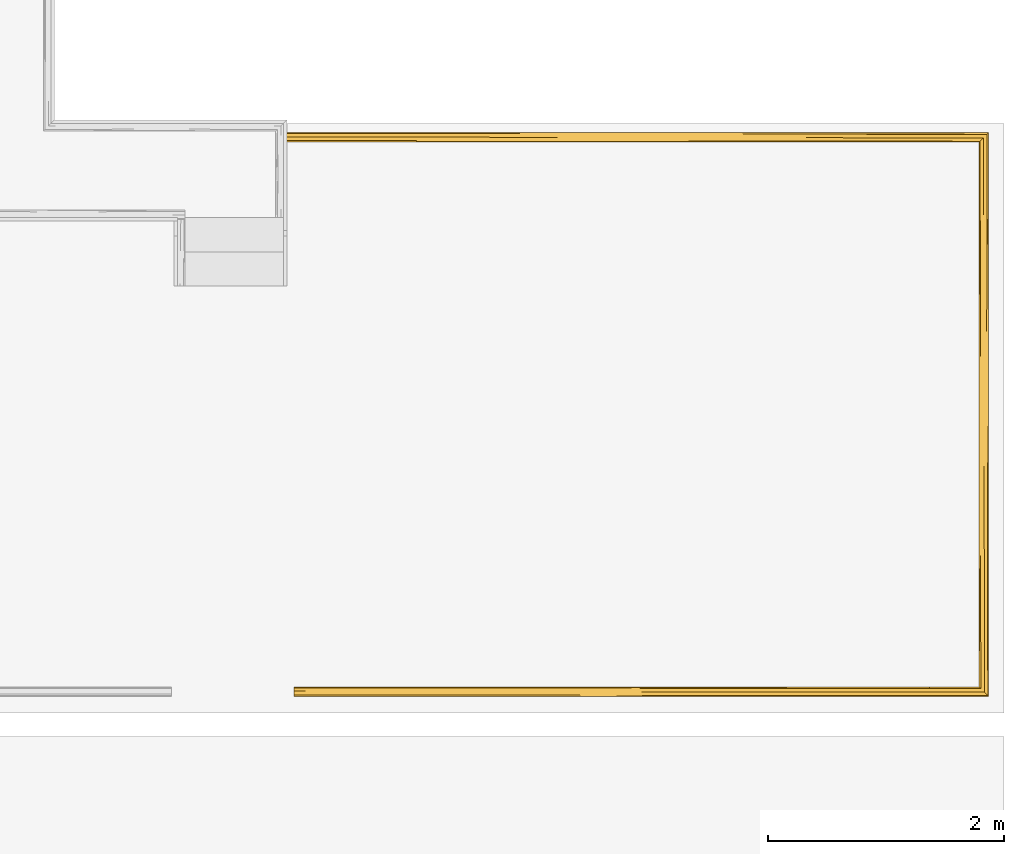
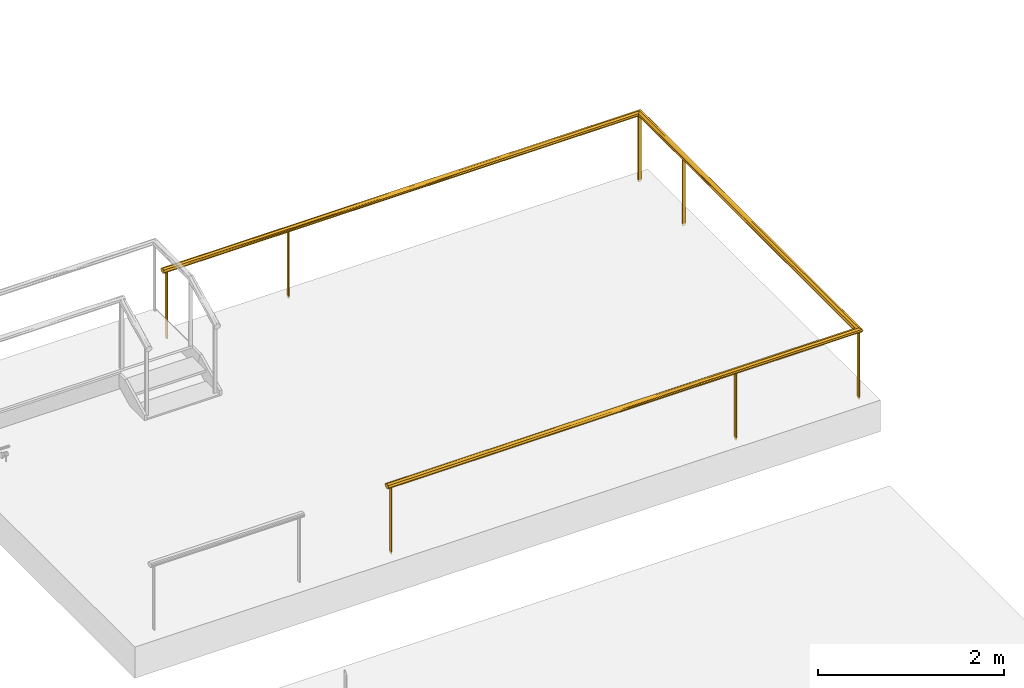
# One storey, part 11 of 15: 1 railing.
"""IFC2X3 building model written with IfcOpenShell, lengths in centimetres."""

from ifc_helpers import new_model, entity, si_unit, converted_unit, derived_unit, direction, frame, origin, place, context, subcontext, project, spatial, faceted_brep, material, material_list, element, save


model = new_model("IFC2X3")

# Units and contexts
model_context = context("Model", 3, precision=0.001, world=origin(), true_north=direction((6.12303176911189e-17, 1.0)))
body_context = subcontext(model_context, "Body", "Model", "MODEL_VIEW")
ifc_project = project(units=[si_unit("LENGTHUNIT", "METRE", prefix="CENTI"), si_unit("AREAUNIT", "SQUARE_METRE"), si_unit("VOLUMEUNIT", "CUBIC_METRE"), converted_unit("PLANEANGLEUNIT", "DEGREE", entity("IfcRatioMeasure", 0.0174532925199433), si_unit("PLANEANGLEUNIT", "RADIAN"), dimensions=[0, 0, 0, 0, 0, 0, 0]), si_unit("MASSUNIT", "GRAM", prefix="KILO"), si_unit("TIMEUNIT", "SECOND"), si_unit("FREQUENCYUNIT", "HERTZ"), si_unit("THERMODYNAMICTEMPERATUREUNIT", "DEGREE_CELSIUS"), derived_unit("THERMALTRANSMITTANCEUNIT", [(si_unit("MASSUNIT", "GRAM", prefix="KILO"), 1), (si_unit("THERMODYNAMICTEMPERATUREUNIT", "KELVIN"), -1), (si_unit("TIMEUNIT", "SECOND"), -3)]), derived_unit("VOLUMETRICFLOWRATEUNIT", [(si_unit("LENGTHUNIT", "METRE"), 3), (si_unit("TIMEUNIT", "SECOND"), -1)]), si_unit("ELECTRICCURRENTUNIT", "AMPERE"), si_unit("ELECTRICVOLTAGEUNIT", "VOLT"), si_unit("POWERUNIT", "WATT"), si_unit("FORCEUNIT", "NEWTON", prefix="KILO"), si_unit("ILLUMINANCEUNIT", "LUX"), si_unit("LUMINOUSFLUXUNIT", "LUMEN"), si_unit("LUMINOUSINTENSITYUNIT", "CANDELA"), derived_unit("USERDEFINED", [(si_unit("MASSUNIT", "GRAM", prefix="KILO"), -1), (si_unit("LENGTHUNIT", "METRE"), -2), (si_unit("TIMEUNIT", "SECOND"), 3), (si_unit("LUMINOUSFLUXUNIT", "LUMEN"), 1)]), derived_unit("LINEARVELOCITYUNIT", [(si_unit("LENGTHUNIT", "METRE"), 1), (si_unit("TIMEUNIT", "SECOND"), -1)]), si_unit("PRESSUREUNIT", "PASCAL"), derived_unit("USERDEFINED", [(si_unit("LENGTHUNIT", "METRE"), -2), (si_unit("MASSUNIT", "GRAM", prefix="KILO"), 1), (si_unit("TIMEUNIT", "SECOND"), -2)])], contexts=[model_context])

# Site, building, storey
site_placement = place(None, frame((8.62739174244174, -249.285249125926, 0.0)))
site = spatial("IfcSite", under=ifc_project, at=site_placement, Name="Default", CompositionType="ELEMENT")
building_placement = place(site_placement, origin())
building = spatial("IfcBuilding", under=site, at=building_placement, CompositionType="ELEMENT")
storey_placement = place(building_placement, frame((0.0, 0.0, 801.0)))
storey = spatial("IfcBuildingStorey", under=building, at=storey_placement, Name="Acrotère E3", CompositionType="ELEMENT", Elevation=801.0)

# Railing
ifc_material_1 = material(Name="Peinture - Grise")
ifc_material_2 = material(Name="Pin (1)")
ifc_material_list = material_list([ifc_material_1, ifc_material_2])
railing_placement = place(storey_placement, frame((3369.90538762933, 5608.82068091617, 20.0)))
element("IfcRailing", 1, at=railing_placement, inside=storey, material=ifc_material_list, Name="Garde-corps:Type Bateau", ObjectType="Garde-corps:Type Bateau", PredefinedType="NOTDEFINED", context=body_context, shape_type="Brep", body=[
    faceted_brep([(155.399720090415, 472.159527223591, 86.9846532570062), (156.599720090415, 472.159527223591, 86.9846532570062), (156.599720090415, 476.159527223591, 86.9846532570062), (155.399720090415, 476.159527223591, 86.9846532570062), (155.399720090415, 472.159527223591, 0.0), (155.399720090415, 476.159527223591, 0.0), (156.599720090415, 476.159527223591, 0.0), (156.599720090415, 472.159527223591, 0.0)], [[[0, 1, 2, 3]], [[4, 5, 6, 7]], [[1, 0, 4, 7]], [[2, 1, 7, 6]], [[3, 2, 6, 5]], [[0, 3, 5, 4]]]),
    faceted_brep([(589.99944018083, 379.759527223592, 86.9846532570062), (589.99944018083, 378.559527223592, 86.9846532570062), (593.99944018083, 378.559527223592, 86.9846532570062), (593.99944018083, 379.759527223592, 86.9846532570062), (589.99944018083, 379.759527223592, 0.0), (593.99944018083, 379.759527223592, 0.0), (593.99944018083, 378.559527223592, 0.0), (589.99944018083, 378.559527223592, 0.0)], [[[0, 1, 2, 3]], [[4, 5, 6, 7]], [[1, 0, 4, 7]], [[2, 1, 7, 6]], [[3, 2, 6, 5]], [[0, 3, 5, 4]]]),
    faceted_brep([(440.099440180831, 6.15952722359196, 86.9846532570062), (438.899440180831, 6.15952722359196, 86.9846532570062), (438.899440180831, 2.159527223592, 86.9846532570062), (440.099440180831, 2.159527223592, 86.9846532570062), (440.099440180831, 6.15952722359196, 0.0), (440.099440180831, 2.159527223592, 0.0), (438.899440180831, 2.159527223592, 0.0), (438.899440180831, 6.15952722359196, 0.0)], [[[0, 1, 2, 3]], [[4, 5, 6, 7]], [[1, 0, 4, 7]], [[2, 1, 7, 6]], [[3, 2, 6, 5]], [[0, 3, 5, 4]]]),
    faceted_brep([(589.99944018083, 474.759527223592, 86.9846532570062), (589.99944018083, 473.559527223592, 86.9846532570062), (593.99944018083, 473.559527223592, 86.9846532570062), (593.99944018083, 474.759527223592, 86.9846532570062), (589.99944018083, 474.759527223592, 0.0), (593.99944018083, 474.759527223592, 0.0), (593.99944018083, 473.559527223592, 0.0), (589.99944018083, 473.559527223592, 0.0)], [[[0, 1, 2, 3]], [[4, 5, 6, 7]], [[1, 0, 4, 7]], [[2, 1, 7, 6]], [[3, 2, 6, 5]], [[0, 3, 5, 4]]]),
    faceted_brep([(592.599440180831, 6.15952722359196, 86.9846532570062), (591.399440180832, 6.15952722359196, 86.9846532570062), (591.399440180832, 2.159527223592, 86.9846532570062), (592.599440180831, 2.159527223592, 86.9846532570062), (592.599440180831, 6.15952722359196, 0.0), (592.599440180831, 2.159527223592, 0.0), (591.399440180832, 2.159527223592, 0.0), (591.399440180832, 6.15952722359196, 0.0)], [[[0, 1, 2, 3]], [[4, 5, 6, 7]], [[1, 0, 4, 7]], [[2, 1, 7, 6]], [[3, 2, 6, 5]], [[0, 3, 5, 4]]]),
    faceted_brep([(4.39999999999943, 472.159527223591, 86.9846532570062), (5.59999999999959, 472.159527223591, 86.9846532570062), (5.59999999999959, 476.159527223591, 86.9846532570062), (4.39999999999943, 476.159527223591, 86.9846532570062), (4.39999999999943, 472.159527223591, 0.0), (4.39999999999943, 476.159527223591, 0.0), (5.59999999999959, 476.159527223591, 0.0), (5.59999999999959, 472.159527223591, 0.0)], [[[0, 1, 2, 3]], [[4, 5, 6, 7]], [[1, 0, 4, 7]], [[2, 1, 7, 6]], [[3, 2, 6, 5]], [[0, 3, 5, 4]]]),
    faceted_brep([(12.5994401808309, 6.15952722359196, 86.9846532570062), (11.3994401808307, 6.15952722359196, 86.9846532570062), (11.3994401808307, 2.159527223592, 86.9846532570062), (12.5994401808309, 2.159527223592, 86.9846532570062), (12.5994401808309, 6.15952722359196, 0.0), (12.5994401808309, 2.159527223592, 0.0), (11.3994401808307, 2.159527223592, 0.0), (11.3994401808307, 6.15952722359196, 0.0)], [[[0, 1, 2, 3]], [[4, 5, 6, 7]], [[1, 0, 4, 7]], [[2, 1, 7, 6]], [[3, 2, 6, 5]], [[0, 3, 5, 4]]]),
    faceted_brep([(588.661178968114, 470.821266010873, 88.8852827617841), (589.077820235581, 232.173804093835, 87.9509570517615), (588.450224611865, 222.01536748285, 88.6164443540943), (588.103892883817, 219.580230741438, 89.3188978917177), (587.999440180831, 470.159527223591, 90.0), (588.400340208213, 7.7586271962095, 89.0746174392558), (588.381406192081, 7.77756121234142, 89.1183221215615), (587.999440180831, 8.1595272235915, 90.0), (591.58132632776, 4.5776410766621, 87.0164343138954), (590.172349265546, 5.98661813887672, 87.6265392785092), (590.979913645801, 220.359741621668, 87.0990832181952), (588.763372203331, 7.39559520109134, 88.2366442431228), (592.069668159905, 232.892942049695, 87.0004624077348), (593.826531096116, 475.986618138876, 87.626539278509), (595.041948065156, 229.467845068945, 88.0524324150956), (594.208205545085, 222.395335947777, 87.4988477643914), (589.322917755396, 471.483004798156, 87.7705655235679), (589.976729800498, 276.464837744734, 87.4118323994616), (594.675962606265, 1.48300479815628, 87.7705655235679), (595.626585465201, 252.182670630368, 88.7352284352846), (595.337701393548, 0.821266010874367, 88.8852827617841), (590.870235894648, 473.030322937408, 87.3934999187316), (587.999440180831, 312.939147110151, 90.0), (587.999440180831, 160.146488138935, 90.0), (592.417554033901, 474.577641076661, 87.0164343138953), (593.128644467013, 3.03032293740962, 87.3934999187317), (593.220179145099, 277.014316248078, 87.1431205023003), (595.999440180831, 0.15952722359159, 90.0), (595.999440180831, 173.379322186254, 90.0), (595.235508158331, 477.395595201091, 88.2366442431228), (595.617474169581, 477.777561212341, 89.1183221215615), (595.999440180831, 478.159527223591, 90.0), (595.999440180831, 310.171797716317, 90.0), (595.632418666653, 226.787685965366, 91.255318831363), (595.337701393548, 477.497788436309, 91.1147172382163), (595.053522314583, 250.53148988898, 91.9373506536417), (590.172349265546, 472.332436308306, 92.3734607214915), (589.086588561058, 247.380605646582, 92.0560529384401), (589.992206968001, 200.132415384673, 92.5949365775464), (594.221064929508, 254.467703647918, 92.4947376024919), (593.826531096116, 2.33243630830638, 92.3734607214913), (594.675962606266, 476.836049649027, 92.2294344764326), (590.994108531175, 256.558143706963, 92.903702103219), (590.870235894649, 5.28873150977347, 92.6065000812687), (592.086282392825, 247.007774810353, 92.9992928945), (588.104201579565, 258.425266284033, 90.6820944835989), (588.407223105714, 470.567310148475, 90.9412700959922), (588.455463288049, 255.210152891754, 91.3910888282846), (591.58132632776, 473.741413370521, 92.983565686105), (588.763372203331, 470.923459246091, 91.7633557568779), (588.661178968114, 7.49778843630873, 91.1147172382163), (588.381406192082, 470.541493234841, 90.8816778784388), (589.322917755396, 6.83604964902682, 92.2294344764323), (592.417554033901, 3.741413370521, 92.983565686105), (593.128644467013, 475.288731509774, 92.6065000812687), (592.354985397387, 474.515072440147, 92.795032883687), (593.238439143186, 198.756826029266, 92.8524543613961), (595.235508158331, 0.923459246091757, 91.7633557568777), (595.617474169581, 0.541493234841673, 90.8816778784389), (0.0, 477.923870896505, 89.6030304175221), (0.0, 477.497788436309, 88.8852827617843), (0.0, 476.836049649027, 87.770565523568), (0.0, 475.288731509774, 87.3934999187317), (0.0, 473.741413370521, 87.0164343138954), (0.0, 473.036924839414, 87.3214867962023), (0.0, 472.332436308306, 87.6265392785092), (0.0, 470.923459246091, 88.2366442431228), (0.0, 470.541493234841, 89.1183221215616), (0.0, 470.159527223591, 90.0), (0.0, 470.821266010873, 91.1147172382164), (0.0, 471.483004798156, 92.2294344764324), (0.0, 473.030322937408, 92.6065000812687), (0.0, 474.577641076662, 92.983565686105), (0.0, 475.986618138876, 92.3734607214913), (0.0, 477.395595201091, 91.7633557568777), (0.0, 477.777561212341, 90.8816778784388), (0.0, 478.159527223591, 90.0), (304.705380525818, 470.365885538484, 89.0488643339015), (324.102508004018, 470.828210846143, 88.3394093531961), (258.119448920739, 471.565170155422, 87.7165842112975), (295.435117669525, 472.532580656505, 87.2593636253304), (309.64147636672, 474.045121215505, 87.0012273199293), (315.532470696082, 475.151429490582, 87.0937011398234), (305.481195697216, 477.086655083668, 87.9553835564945), (322.205707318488, 477.724007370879, 88.6386970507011), (255.319367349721, 478.045769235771, 89.2896256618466), (248.804301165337, 476.166542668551, 87.4049686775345), (252.160553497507, 478.159527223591, 90.0), (346.168750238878, 478.159527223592, 90.0), (343.837618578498, 470.159527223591, 90.0), (241.827503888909, 470.159527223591, 90.0), (297.333250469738, 477.891786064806, 91.0791256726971), (346.464452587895, 477.396290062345, 91.762638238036), (279.098223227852, 476.635024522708, 92.3564700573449), (281.817977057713, 475.670799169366, 92.7776396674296), (296.177492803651, 474.162817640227, 92.9999989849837), (265.651457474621, 472.014912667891, 92.5323612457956), (332.297759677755, 473.026942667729, 92.8772303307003), (315.061447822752, 470.566137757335, 91.3178573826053), (292.876373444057, 471.178436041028, 92.000279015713), (6.9994401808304, 1.48300479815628, 92.2294344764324), (6.9994401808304, 3.03032293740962, 92.6065000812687), (6.9994401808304, 4.5776410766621, 92.983565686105), (6.9994401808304, 5.98661813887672, 92.3734607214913), (6.9994401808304, 7.39559520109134, 91.7633557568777), (6.9994401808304, 7.79217242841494, 90.8479513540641), (6.9994401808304, 8.1595272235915, 90.0), (6.9994401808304, 7.49778843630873, 88.8852827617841), (6.9994401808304, 6.83604964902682, 87.770565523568), (6.9994401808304, 5.28873150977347, 87.3934999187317), (6.9994401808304, 3.741413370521, 87.0164343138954), (6.9994401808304, 2.33243630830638, 87.6265392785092), (6.9994401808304, 0.923459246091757, 88.2366442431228), (6.9994401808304, 0.524378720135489, 89.1578269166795), (6.9994401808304, 0.15952722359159, 90.0), (6.9994401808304, 0.821266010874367, 91.1147172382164), (314.160612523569, 7.78361872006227, 88.7303138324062), (296.660586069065, 1.21125155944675, 87.9725472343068), (343.599604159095, 2.11732632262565, 87.4204562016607), (246.214438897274, 8.1595272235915, 90.0), (279.419537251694, 6.37558753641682, 87.5024801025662), (347.660945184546, 5.39314035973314, 87.1462328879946), (290.627892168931, 4.23407607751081, 87.0005210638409), (285.304502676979, 7.20309907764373, 88.053367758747), (348.786511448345, 0.15952722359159, 90.0), (273.738489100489, 0.582808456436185, 88.6568752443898), (251.869402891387, 0.15952722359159, 90.0), (277.086606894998, 3.13503697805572, 87.100067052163), (351.128215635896, 8.15952722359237, 90.0), (317.201232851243, 0.532690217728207, 91.2652687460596), (294.535482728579, 7.11121788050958, 92.0246558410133), (339.119026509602, 6.2179019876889, 92.5723024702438), (345.185349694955, 2.94909477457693, 92.8593452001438), (279.773434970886, 1.95493425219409, 92.5032220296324), (293.233229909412, 4.10372034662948, 92.9997080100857), (289.146331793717, 1.11858334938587, 91.9489411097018), (270.566236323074, 7.73440051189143, 91.3458855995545), (273.804715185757, 5.20115604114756, 92.896496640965)], [[[0, 1, 2]], [[3, 4, 0]], [[3, 5, 6, 7]], [[8, 9, 10]], [[2, 1, 11]], [[5, 2, 11]], [[8, 10, 12]], [[5, 3, 2]], [[13, 14, 15]], [[16, 17, 1]], [[18, 15, 14]], [[14, 19, 20]], [[1, 9, 11]], [[0, 16, 1]], [[10, 17, 21]], [[10, 21, 12]], [[9, 1, 17]], [[22, 4, 3, 7, 23]], [[17, 16, 21]], [[17, 10, 9]], [[21, 24, 12]], [[12, 25, 8]], [[15, 26, 13]], [[24, 26, 12]], [[25, 12, 26]], [[18, 25, 15]], [[26, 24, 13]], [[26, 15, 25]], [[27, 20, 28]], [[13, 29, 14]], [[14, 20, 18]], [[2, 3, 0]], [[19, 30, 28]], [[29, 19, 14]], [[30, 31, 32, 28]], [[20, 19, 28]], [[30, 19, 29]], [[33, 34, 35]], [[36, 37, 38]], [[35, 39, 40]], [[41, 39, 35]], [[42, 43, 44]], [[23, 7, 45, 4, 22]], [[46, 45, 47]], [[48, 36, 42]], [[37, 49, 47]], [[45, 7, 50]], [[46, 47, 49]], [[50, 37, 47]], [[45, 46, 51, 4]], [[50, 52, 37]], [[42, 38, 43]], [[42, 44, 48]], [[52, 38, 37]], [[37, 36, 49]], [[38, 52, 43]], [[38, 42, 36]], [[43, 53, 44]], [[44, 54, 55, 48]], [[39, 56, 40]], [[44, 53, 56]], [[40, 56, 53]], [[56, 54, 44]], [[41, 54, 39]], [[56, 39, 54]], [[31, 34, 32]], [[40, 57, 35]], [[35, 34, 41]], [[47, 45, 50]], [[33, 58, 32]], [[57, 33, 35]], [[58, 27, 28, 32]], [[34, 33, 32]], [[58, 33, 57]], [[59, 60, 61, 62, 63, 64, 65, 66, 67, 68, 69, 70, 71, 72, 73, 74, 75, 76]], [[77, 67, 78]], [[67, 77, 68]], [[79, 65, 80]], [[64, 80, 65]], [[24, 81, 82]], [[80, 16, 79]], [[83, 61, 60]], [[83, 84, 29]], [[60, 85, 84]], [[86, 13, 82]], [[83, 60, 84]], [[30, 29, 84]], [[59, 76, 87]], [[86, 83, 13]], [[85, 87, 88, 31]], [[16, 78, 79]], [[61, 83, 86]], [[59, 87, 85]], [[82, 81, 62]], [[83, 29, 13]], [[86, 62, 61]], [[62, 86, 82]], [[63, 62, 81]], [[24, 82, 13]], [[64, 63, 81]], [[81, 24, 21]], [[21, 16, 80]], [[81, 80, 64]], [[21, 80, 81]], [[79, 66, 65]], [[66, 79, 78]], [[85, 31, 30]], [[59, 85, 60]], [[84, 85, 30]], [[67, 66, 78]], [[0, 78, 16]], [[4, 77, 0]], [[78, 0, 77]], [[77, 4, 89, 90, 68]], [[91, 92, 34]], [[91, 75, 74]], [[41, 93, 94]], [[93, 73, 94]], [[55, 95, 48]], [[74, 93, 92]], [[96, 97, 71]], [[54, 41, 94, 55]], [[71, 97, 95]], [[88, 91, 31]], [[98, 51, 46, 49]], [[41, 92, 93]], [[99, 96, 70]], [[97, 48, 95]], [[92, 41, 34]], [[69, 68, 90]], [[34, 31, 91]], [[99, 36, 96]], [[75, 88, 87, 76]], [[73, 93, 74]], [[94, 73, 72]], [[72, 71, 95]], [[94, 95, 55]], [[72, 95, 94]], [[97, 36, 48]], [[36, 97, 96]], [[92, 91, 74]], [[75, 91, 88]], [[49, 36, 99]], [[70, 96, 71]], [[51, 90, 89, 4]], [[99, 70, 69]], [[69, 98, 99]], [[99, 98, 49]], [[98, 69, 90]], [[51, 98, 90]], [[100, 101, 102, 103, 104, 105, 106, 107, 108, 109, 110, 111, 112, 113, 114, 115]], [[116, 6, 5, 11]], [[18, 117, 118]], [[107, 106, 119]], [[120, 121, 109]], [[109, 121, 122]], [[123, 120, 108]], [[27, 124, 20]], [[117, 125, 112]], [[117, 18, 20]], [[113, 125, 124]], [[117, 20, 125]], [[113, 124, 126, 114]], [[110, 122, 127]], [[111, 118, 117]], [[112, 125, 113]], [[125, 20, 124]], [[127, 118, 111]], [[123, 9, 120]], [[127, 122, 25]], [[117, 112, 111]], [[118, 25, 18]], [[25, 118, 127]], [[8, 25, 122]], [[110, 127, 111]], [[8, 122, 121]], [[122, 110, 109]], [[121, 9, 8]], [[9, 121, 120]], [[11, 9, 123]], [[108, 120, 109]], [[6, 119, 128, 7]], [[123, 108, 107]], [[107, 116, 123]], [[123, 116, 11]], [[116, 107, 119]], [[6, 116, 119]], [[57, 129, 58]], [[52, 130, 131]], [[132, 101, 133]], [[132, 134, 101]], [[135, 133, 100]], [[135, 40, 133]], [[7, 128, 50]], [[130, 136, 104]], [[130, 52, 50]], [[105, 136, 128]], [[130, 50, 136]], [[105, 128, 119, 106]], [[129, 115, 126]], [[131, 130, 103]], [[104, 136, 105]], [[136, 50, 128]], [[131, 103, 137]], [[102, 134, 137]], [[137, 134, 43]], [[130, 104, 103]], [[131, 43, 52]], [[43, 131, 137]], [[53, 43, 134]], [[102, 137, 103]], [[53, 134, 132]], [[134, 102, 101]], [[132, 40, 53]], [[40, 132, 133]], [[57, 40, 135]], [[100, 133, 101]], [[114, 126, 115]], [[135, 100, 115]], [[115, 129, 135]], [[58, 126, 124, 27]], [[135, 129, 57]], [[58, 129, 126]]]),
])

save(model, "model.ifc")
